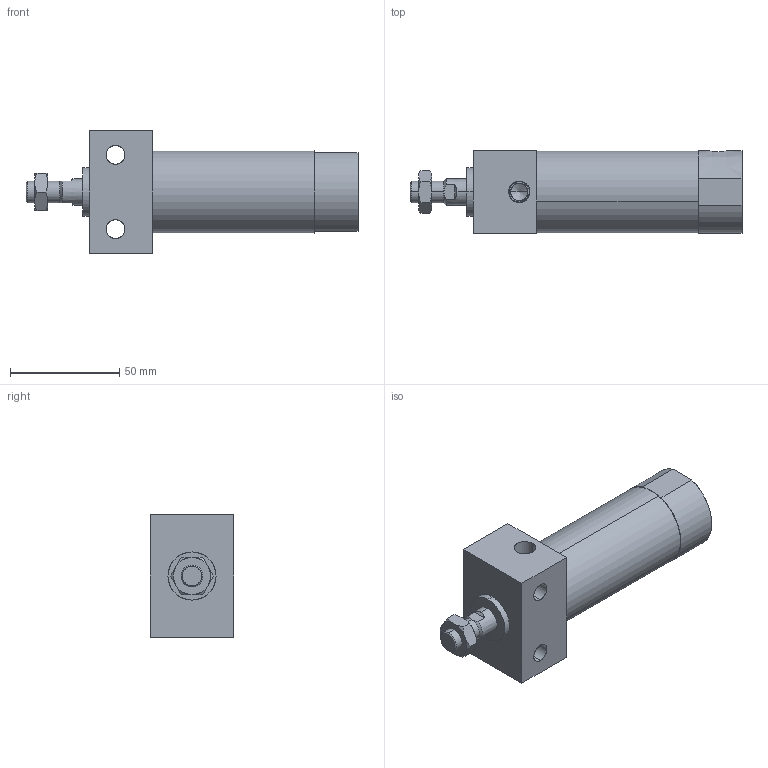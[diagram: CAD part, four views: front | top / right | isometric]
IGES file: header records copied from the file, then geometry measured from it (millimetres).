
Start section: SolidWorks IGES file using analytic representation for surfaces
Global section: file name: C:\Users\Toshiba\Desktop\JGES2-32-25.IGS; native system: SolidWorks 2014; preprocessor: SolidWorks 2014; author: Toshiba; date: 160420.150645; units: millimetre
Bounding box: 152 x 38 x 56 mm (x, y, z)
Surface area: 30356.4 mm2 (no closed solid volume)
Topology: 0 solids, 0 shells, 85 faces, 1536 edges, 1530 vertices
Faces by surface type: bspline 43, revolution 42
